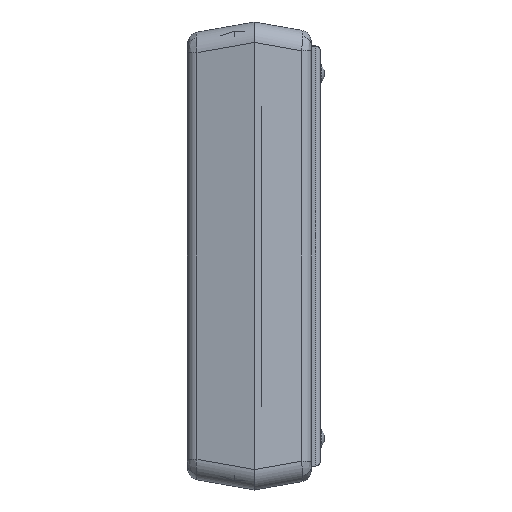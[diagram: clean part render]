
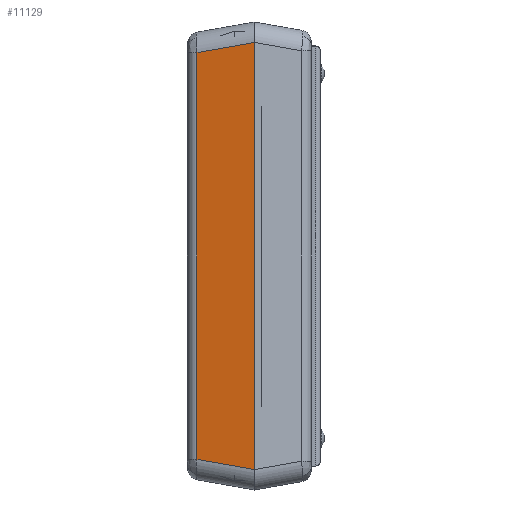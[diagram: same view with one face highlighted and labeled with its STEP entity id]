
A CAD part, left-side view. The second image highlights one B-rep face of the part: STEP entity #11129.
In plain terms, the highlighted planar face has unit normal (-0.985, 0.174, 0).
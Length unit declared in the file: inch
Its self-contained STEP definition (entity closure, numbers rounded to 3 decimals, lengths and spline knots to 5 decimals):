
#21 = ORIENTED_EDGE ( 'NONE', *, *, #1373, .T. ) ;
#670 = EDGE_LOOP ( 'NONE', ( #11558, #21, #19817, #5610 ) ) ;
#1165 = VERTEX_POINT ( 'NONE', #9186 ) ;
#1373 = EDGE_CURVE ( 'NONE', #14128, #21423, #10441, .T. ) ;
#2801 = VECTOR ( 'NONE', #9178, 39.37008 ) ;
#2836 = CARTESIAN_POINT ( 'NONE',  ( -3.75197, 0., -1.99606 ) ) ;
#4683 = CARTESIAN_POINT ( 'NONE',  ( -3.66565, 0.48953, -1.8954 ) ) ;
#5610 = ORIENTED_EDGE ( 'NONE', *, *, #22542, .T. ) ;
#6520 = LINE ( 'NONE', #2836, #17591 ) ;
#7061 = VERTEX_POINT ( 'NONE', #7187 ) ;
#7187 = CARTESIAN_POINT ( 'NONE',  ( -3.66565, 0.48953, -1.73527 ) ) ;
#7982 = VECTOR ( 'NONE', #19287, 39.37008 ) ;
#8452 = PLANE ( 'NONE',  #22281 ) ;
#9178 = DIRECTION ( 'NONE',  ( -0.171, -0.97, -0.171 ) ) ;
#9186 = CARTESIAN_POINT ( 'NONE',  ( -3.75197, 0., -1.82159 ) ) ;
#10441 = LINE ( 'NONE', #17469, #15299 ) ;
#11129 = ADVANCED_FACE ( 'NONE', ( #24848 ), #8452, .T. ) ;
#11558 = ORIENTED_EDGE ( 'NONE', *, *, #15652, .T. ) ;
#12700 = DIRECTION ( 'NONE',  ( -0.174, -0.985, 0. ) ) ;
#13407 = CARTESIAN_POINT ( 'NONE',  ( -3.75708, -0.02896, -1.8267 ) ) ;
#14128 = VERTEX_POINT ( 'NONE', #16128 ) ;
#15299 = VECTOR ( 'NONE', #15417, 39.37008 ) ;
#15417 = DIRECTION ( 'NONE',  ( 0.171, 0.97, -0.171 ) ) ;
#15652 = EDGE_CURVE ( 'NONE', #1165, #14128, #6520, .T. ) ;
#16128 = CARTESIAN_POINT ( 'NONE',  ( -3.75197, 0., 1.82159 ) ) ;
#17455 = DIRECTION ( 'NONE',  ( 0., 0., 1. ) ) ;
#17469 = CARTESIAN_POINT ( 'NONE',  ( -3.64022, 0.63375, 1.70984 ) ) ;
#17591 = VECTOR ( 'NONE', #17455, 39.37008 ) ;
#19287 = DIRECTION ( 'NONE',  ( 0., 0., -1. ) ) ;
#19817 = ORIENTED_EDGE ( 'NONE', *, *, #25363, .T. ) ;
#21423 = VERTEX_POINT ( 'NONE', #27100 ) ;
#22281 = AXIS2_PLACEMENT_3D ( 'NONE', #23041, #25165, #12700 ) ;
#22542 = EDGE_CURVE ( 'NONE', #7061, #1165, #24434, .T. ) ;
#23041 = CARTESIAN_POINT ( 'NONE',  ( -3.75197, 0., -1.99606 ) ) ;
#23310 = LINE ( 'NONE', #4683, #7982 ) ;
#24434 = LINE ( 'NONE', #13407, #2801 ) ;
#24848 = FACE_OUTER_BOUND ( 'NONE', #670, .T. ) ;
#25165 = DIRECTION ( 'NONE',  ( -0.985, 0.174, 0. ) ) ;
#25363 = EDGE_CURVE ( 'NONE', #21423, #7061, #23310, .T. ) ;
#27100 = CARTESIAN_POINT ( 'NONE',  ( -3.66565, 0.48953, 1.73527 ) ) ;
